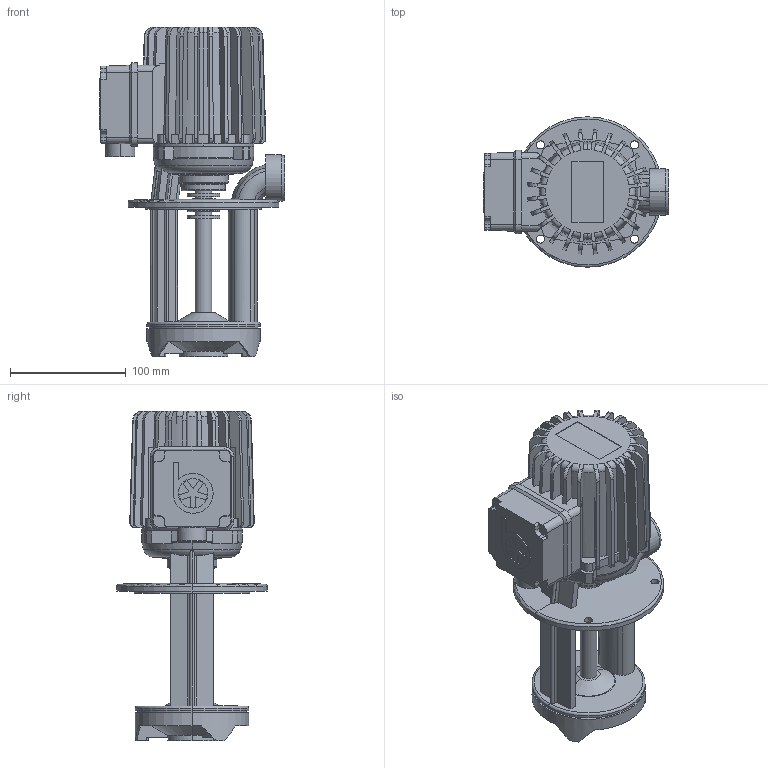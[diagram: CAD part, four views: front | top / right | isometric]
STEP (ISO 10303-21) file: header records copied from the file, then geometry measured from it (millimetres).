
FILE_DESCRIPTION(('no description'),'unknown implementation level');
FILE_NAME('TB100_120_2.stp',' ',('K. H. Brinkmann GmbH & Co. KG'),('CADClick - KiM GmbH - www.kimweb.de'),'unknown preprocess','ACIS','unknown authorization');
FILE_SCHEMA(('automotive_design'));
Length unit declared in the file: millimetre
Products named in the file (3): 1; 2; 3
Bounding box: 160 x 130 x 285 mm (x, y, z)
Volume: 1467107.8 mm3; surface area: 220852.7 mm2
Topology: 3 solids, 3 shells, 558 faces, 1551 edges, 1016 vertices
Faces by surface type: plane 251, cylinder 177, torus 67, cone 63
Entity records: 38590 total; most frequent: CARTESIAN_POINT 6926, STYLED_ITEM 3128, PRESENTATION_STYLE_ASSIGNMENT 3128, COLOUR_RGB 3128, ORIENTED_EDGE 3102, DIRECTION 2996, EDGE_CURVE 1551, CURVE_STYLE 1551
